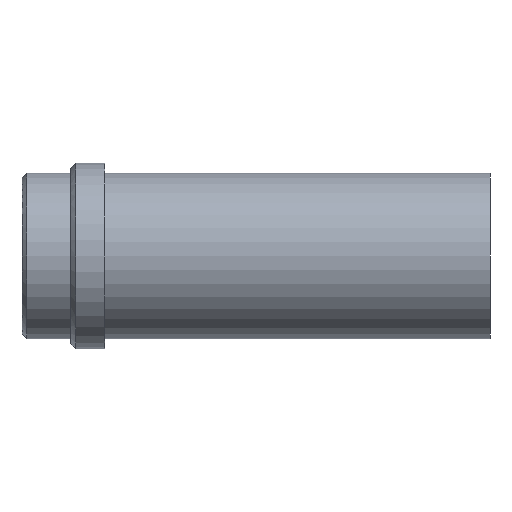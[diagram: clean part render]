
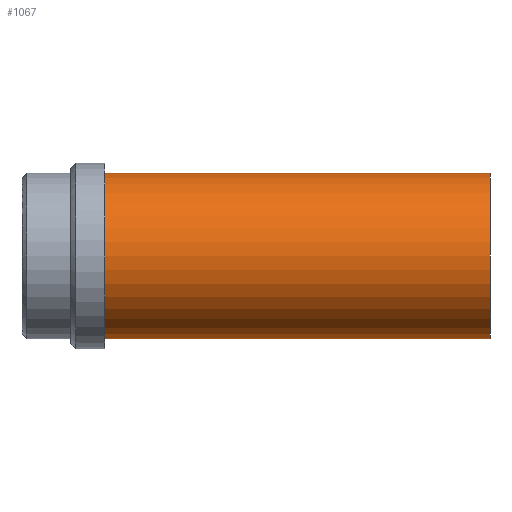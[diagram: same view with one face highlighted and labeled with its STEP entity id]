
A CAD part, front view. The second image highlights one B-rep face of the part: STEP entity #1067.
In plain terms, the highlighted cylindrical face has radius 17 mm (diameter 34 mm), a partial arc.
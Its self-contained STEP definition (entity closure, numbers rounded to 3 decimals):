
#953=CARTESIAN_POINT('Vertex',(0.,0.,-17.)) ;
#958=CARTESIAN_POINT('Axis2P3D Location',(0.,0.,0.)) ;
#962=CARTESIAN_POINT('Vertex',(0.,-17.,0.)) ;
#965=CARTESIAN_POINT('Axis2P3D Location',(0.,0.,0.)) ;
#969=CARTESIAN_POINT('Vertex',(0.,0.,17.)) ;
#995=CARTESIAN_POINT('Vertex',(79.,0.,17.)) ;
#998=CARTESIAN_POINT('Axis2P3D Location',(79.,0.,0.)) ;
#1002=CARTESIAN_POINT('Vertex',(79.,-17.,0.)) ;
#1005=CARTESIAN_POINT('Axis2P3D Location',(79.,0.,0.)) ;
#1009=CARTESIAN_POINT('Vertex',(79.,0.,-17.)) ;
#1035=CARTESIAN_POINT('Line Origine',(79.,0.,17.)) ;
#1040=CARTESIAN_POINT('Line Origine',(79.,0.,-17.)) ;
#1054=CARTESIAN_POINT('Axis2P3D Location',(79.,0.,0.)) ;
#959=DIRECTION('Axis2P3D Direction',(1.,0.,-0.)) ;
#966=DIRECTION('Axis2P3D Direction',(1.,0.,-0.)) ;
#999=DIRECTION('Axis2P3D Direction',(1.,0.,-0.)) ;
#1006=DIRECTION('Axis2P3D Direction',(1.,0.,-0.)) ;
#1036=DIRECTION('Vector Direction',(-1.,0.,0.)) ;
#1041=DIRECTION('Vector Direction',(-1.,0.,0.)) ;
#1055=DIRECTION('Axis2P3D Direction',(-1.,-0.,-0.)) ;
#1056=DIRECTION('Axis2P3D XDirection',(0.,0.,-1.)) ;
#960=AXIS2_PLACEMENT_3D('Circle Axis2P3D',#958,#959,$) ;
#967=AXIS2_PLACEMENT_3D('Circle Axis2P3D',#965,#966,$) ;
#1000=AXIS2_PLACEMENT_3D('Circle Axis2P3D',#998,#999,$) ;
#1007=AXIS2_PLACEMENT_3D('Circle Axis2P3D',#1005,#1006,$) ;
#1057=AXIS2_PLACEMENT_3D('Cylinder Axis2P3D',#1054,#1055,#1056) ;
#1060=ORIENTED_EDGE('',*,*,#1044,.T.) ;
#1061=ORIENTED_EDGE('',*,*,#1011,.F.) ;
#1062=ORIENTED_EDGE('',*,*,#1004,.F.) ;
#1063=ORIENTED_EDGE('',*,*,#1039,.T.) ;
#1064=ORIENTED_EDGE('',*,*,#971,.T.) ;
#1065=ORIENTED_EDGE('',*,*,#964,.T.) ;
#1037=VECTOR('Line Direction',#1036,1.) ;
#1042=VECTOR('Line Direction',#1041,1.) ;
#1067=ADVANCED_FACE('358-25X96',(#1066),#1058,.T.) ;
#961=CIRCLE('generated circle',#960,17.) ;
#968=CIRCLE('generated circle',#967,17.) ;
#1001=CIRCLE('generated circle',#1000,17.) ;
#1008=CIRCLE('generated circle',#1007,17.) ;
#1058=CYLINDRICAL_SURFACE('generated cylinder',#1057,17.) ;
#964=EDGE_CURVE('',#963,#954,#961,.T.) ;
#971=EDGE_CURVE('',#970,#963,#968,.T.) ;
#1004=EDGE_CURVE('',#996,#1003,#1001,.T.) ;
#1011=EDGE_CURVE('',#1003,#1010,#1008,.T.) ;
#1039=EDGE_CURVE('',#996,#970,#1038,.T.) ;
#1044=EDGE_CURVE('',#954,#1010,#1043,.F.) ;
#1059=EDGE_LOOP('',(#1060,#1061,#1062,#1063,#1064,#1065)) ;
#1066=FACE_OUTER_BOUND('',#1059,.T.) ;
#1038=LINE('Line',#1035,#1037) ;
#1043=LINE('Line',#1040,#1042) ;
#954=VERTEX_POINT('',#953) ;
#963=VERTEX_POINT('',#962) ;
#970=VERTEX_POINT('',#969) ;
#996=VERTEX_POINT('',#995) ;
#1003=VERTEX_POINT('',#1002) ;
#1010=VERTEX_POINT('',#1009) ;
